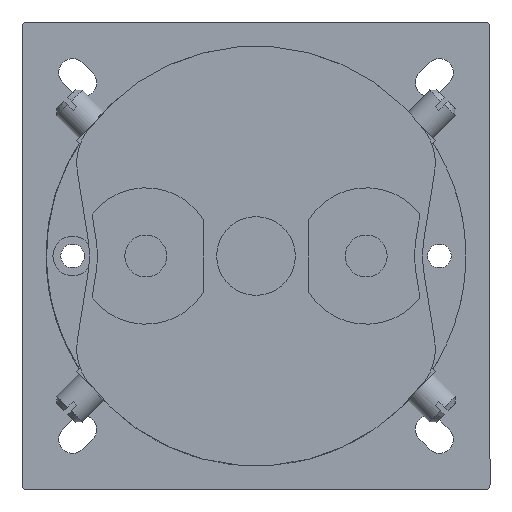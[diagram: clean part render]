
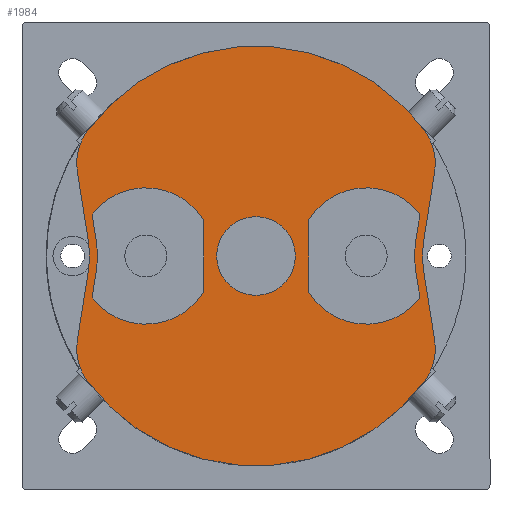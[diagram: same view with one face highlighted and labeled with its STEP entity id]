
A CAD part, front view. The second image highlights one B-rep face of the part: STEP entity #1984.
In plain terms, the highlighted planar face has unit normal (0, -1, 0).
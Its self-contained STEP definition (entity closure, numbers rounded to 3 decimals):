
#1067=FACE_BOUND('',#5192,.T.);
#1068=FACE_BOUND('',#5193,.T.);
#1069=FACE_BOUND('',#5194,.T.);
#1070=FACE_BOUND('',#5195,.T.);
#1984=ADVANCED_FACE('',(#1067,#1068,#1069,#1070),#2895,.T.);
#2895=PLANE('',#21921);
#5192=EDGE_LOOP('',(#10536,#10537,#10538,#10539,#10540,#10541));
#5193=EDGE_LOOP('',(#10542,#10543,#10544,#10545,#10546,#10547));
#5194=EDGE_LOOP('',(#10548,#10549,#10550,#10551,#10552,#10553,#10554,#10555,
#10556,#10557,#10558,#10559));
#5195=EDGE_LOOP('',(#10560));
#5970=CIRCLE('',#21893,7.5);
#5971=CIRCLE('',#21895,13.);
#5972=CIRCLE('',#21898,21.5);
#5973=CIRCLE('',#21901,13.);
#5974=CIRCLE('',#21904,21.5);
#5975=CIRCLE('',#21907,13.);
#5976=CIRCLE('',#21910,13.);
#5977=CIRCLE('',#21913,10.);
#5978=CIRCLE('',#21914,20.);
#5979=CIRCLE('',#21915,10.);
#5980=CIRCLE('',#21916,40.);
#5981=CIRCLE('',#21917,10.);
#5982=CIRCLE('',#21918,20.);
#5983=CIRCLE('',#21919,10.);
#5984=CIRCLE('',#21920,40.);
#10536=ORIENTED_EDGE('',*,*,#15929,.T.);
#10537=ORIENTED_EDGE('',*,*,#15927,.T.);
#10538=ORIENTED_EDGE('',*,*,#15925,.T.);
#10539=ORIENTED_EDGE('',*,*,#15923,.T.);
#10540=ORIENTED_EDGE('',*,*,#15921,.T.);
#10541=ORIENTED_EDGE('',*,*,#15918,.T.);
#10542=ORIENTED_EDGE('',*,*,#15917,.F.);
#10543=ORIENTED_EDGE('',*,*,#15915,.F.);
#10544=ORIENTED_EDGE('',*,*,#15913,.F.);
#10545=ORIENTED_EDGE('',*,*,#15911,.F.);
#10546=ORIENTED_EDGE('',*,*,#15909,.F.);
#10547=ORIENTED_EDGE('',*,*,#15906,.F.);
#10548=ORIENTED_EDGE('',*,*,#15930,.T.);
#10549=ORIENTED_EDGE('',*,*,#15931,.T.);
#10550=ORIENTED_EDGE('',*,*,#15932,.T.);
#10551=ORIENTED_EDGE('',*,*,#15933,.T.);
#10552=ORIENTED_EDGE('',*,*,#15934,.T.);
#10553=ORIENTED_EDGE('',*,*,#15935,.T.);
#10554=ORIENTED_EDGE('',*,*,#15936,.T.);
#10555=ORIENTED_EDGE('',*,*,#15937,.T.);
#10556=ORIENTED_EDGE('',*,*,#15938,.T.);
#10557=ORIENTED_EDGE('',*,*,#15939,.T.);
#10558=ORIENTED_EDGE('',*,*,#15940,.T.);
#10559=ORIENTED_EDGE('',*,*,#15941,.T.);
#10560=ORIENTED_EDGE('',*,*,#15905,.F.);
#13282=VERTEX_POINT('',#34390);
#13283=VERTEX_POINT('',#34393);
#13284=VERTEX_POINT('',#34394);
#13285=VERTEX_POINT('',#34399);
#13286=VERTEX_POINT('',#34403);
#13287=VERTEX_POINT('',#34407);
#13288=VERTEX_POINT('',#34411);
#13289=VERTEX_POINT('',#34417);
#13290=VERTEX_POINT('',#34418);
#13291=VERTEX_POINT('',#34423);
#13292=VERTEX_POINT('',#34427);
#13293=VERTEX_POINT('',#34431);
#13294=VERTEX_POINT('',#34435);
#13295=VERTEX_POINT('',#34441);
#13296=VERTEX_POINT('',#34442);
#13297=VERTEX_POINT('',#34444);
#13298=VERTEX_POINT('',#34446);
#13299=VERTEX_POINT('',#34448);
#13300=VERTEX_POINT('',#34450);
#13301=VERTEX_POINT('',#34452);
#13302=VERTEX_POINT('',#34454);
#13303=VERTEX_POINT('',#34456);
#13304=VERTEX_POINT('',#34458);
#13305=VERTEX_POINT('',#34460);
#13306=VERTEX_POINT('',#34462);
#15905=EDGE_CURVE('',#13282,#13282,#5970,.T.);
#15906=EDGE_CURVE('',#13283,#13284,#5971,.T.);
#15909=EDGE_CURVE('',#13284,#13285,#18068,.T.);
#15911=EDGE_CURVE('',#13285,#13286,#5972,.T.);
#15913=EDGE_CURVE('',#13286,#13287,#18071,.T.);
#15915=EDGE_CURVE('',#13287,#13288,#5973,.T.);
#15917=EDGE_CURVE('',#13288,#13283,#18074,.T.);
#15918=EDGE_CURVE('',#13289,#13290,#5974,.T.);
#15921=EDGE_CURVE('',#13291,#13289,#18077,.T.);
#15923=EDGE_CURVE('',#13292,#13291,#5975,.T.);
#15925=EDGE_CURVE('',#13293,#13292,#18080,.T.);
#15927=EDGE_CURVE('',#13294,#13293,#5976,.T.);
#15929=EDGE_CURVE('',#13290,#13294,#18083,.T.);
#15930=EDGE_CURVE('',#13295,#13296,#5977,.T.);
#15931=EDGE_CURVE('',#13296,#13297,#18084,.T.);
#15932=EDGE_CURVE('',#13297,#13298,#5978,.T.);
#15933=EDGE_CURVE('',#13298,#13299,#18085,.T.);
#15934=EDGE_CURVE('',#13299,#13300,#5979,.T.);
#15935=EDGE_CURVE('',#13300,#13301,#5980,.T.);
#15936=EDGE_CURVE('',#13301,#13302,#5981,.T.);
#15937=EDGE_CURVE('',#13302,#13303,#18086,.T.);
#15938=EDGE_CURVE('',#13303,#13304,#5982,.T.);
#15939=EDGE_CURVE('',#13304,#13305,#18087,.T.);
#15940=EDGE_CURVE('',#13305,#13306,#5983,.T.);
#15941=EDGE_CURVE('',#13306,#13295,#5984,.T.);
#18068=LINE('',#34398,#20079);
#18071=LINE('',#34406,#20082);
#18074=LINE('',#34414,#20085);
#18077=LINE('',#34422,#20088);
#18080=LINE('',#34430,#20091);
#18083=LINE('',#34438,#20094);
#18084=LINE('',#34443,#20095);
#18085=LINE('',#34447,#20096);
#18086=LINE('',#34455,#20097);
#18087=LINE('',#34459,#20098);
#20079=VECTOR('',#26749,1.);
#20082=VECTOR('',#26758,1.);
#20085=VECTOR('',#26767,1.);
#20088=VECTOR('',#26776,1.);
#20091=VECTOR('',#26785,1.);
#20094=VECTOR('',#26794,1.);
#20095=VECTOR('',#26799,1.);
#20096=VECTOR('',#26802,1.);
#20097=VECTOR('',#26809,1.);
#20098=VECTOR('',#26812,1.);
#21893=AXIS2_PLACEMENT_3D('',#34389,#26739,#26740);
#21895=AXIS2_PLACEMENT_3D('',#34392,#26743,#26744);
#21898=AXIS2_PLACEMENT_3D('',#34402,#26753,#26754);
#21901=AXIS2_PLACEMENT_3D('',#34410,#26762,#26763);
#21904=AXIS2_PLACEMENT_3D('',#34416,#26770,#26771);
#21907=AXIS2_PLACEMENT_3D('',#34426,#26780,#26781);
#21910=AXIS2_PLACEMENT_3D('',#34434,#26789,#26790);
#21913=AXIS2_PLACEMENT_3D('',#34440,#26797,#26798);
#21914=AXIS2_PLACEMENT_3D('',#34445,#26800,#26801);
#21915=AXIS2_PLACEMENT_3D('',#34449,#26803,#26804);
#21916=AXIS2_PLACEMENT_3D('',#34451,#26805,#26806);
#21917=AXIS2_PLACEMENT_3D('',#34453,#26807,#26808);
#21918=AXIS2_PLACEMENT_3D('',#34457,#26810,#26811);
#21919=AXIS2_PLACEMENT_3D('',#34461,#26813,#26814);
#21920=AXIS2_PLACEMENT_3D('',#34463,#26815,#26816);
#21921=AXIS2_PLACEMENT_3D('',#34464,#26817,#26818);
#26739=DIRECTION('',(0.,-1.,0.));
#26740=DIRECTION('',(0.,0.,-1.));
#26743=DIRECTION('',(0.,-1.,0.));
#26744=DIRECTION('',(1.,0.,0.));
#26749=DIRECTION('',(-0.156,0.,0.988));
#26753=DIRECTION('',(0.,1.,0.));
#26754=DIRECTION('',(1.,0.,0.));
#26758=DIRECTION('',(0.156,0.,0.988));
#26762=DIRECTION('',(0.,-1.,0.));
#26763=DIRECTION('',(1.,0.,0.));
#26767=DIRECTION('',(0.,0.,-1.));
#26770=DIRECTION('',(0.,-1.,0.));
#26771=DIRECTION('',(1.,0.,0.));
#26776=DIRECTION('',(0.156,0.,0.988));
#26780=DIRECTION('',(0.,1.,0.));
#26781=DIRECTION('',(1.,0.,0.));
#26785=DIRECTION('',(0.,0.,-1.));
#26789=DIRECTION('',(0.,1.,0.));
#26790=DIRECTION('',(1.,0.,0.));
#26794=DIRECTION('',(-0.156,0.,0.988));
#26797=DIRECTION('',(0.,-1.,0.));
#26798=DIRECTION('',(0.,0.,-1.));
#26799=DIRECTION('',(0.156,0.,-0.988));
#26800=DIRECTION('',(0.,1.,0.));
#26801=DIRECTION('',(0.,0.,-1.));
#26802=DIRECTION('',(-0.156,0.,-0.988));
#26803=DIRECTION('',(0.,-1.,0.));
#26804=DIRECTION('',(0.,0.,-1.));
#26805=DIRECTION('',(0.,-1.,0.));
#26806=DIRECTION('',(0.,0.,-1.));
#26807=DIRECTION('',(0.,-1.,0.));
#26808=DIRECTION('',(0.,0.,-1.));
#26809=DIRECTION('',(-0.156,0.,0.988));
#26810=DIRECTION('',(0.,1.,0.));
#26811=DIRECTION('',(0.,0.,-1.));
#26812=DIRECTION('',(0.156,0.,0.988));
#26813=DIRECTION('',(0.,-1.,0.));
#26814=DIRECTION('',(0.,0.,-1.));
#26815=DIRECTION('',(0.,-1.,0.));
#26816=DIRECTION('',(0.,0.,-1.));
#26817=DIRECTION('',(0.,-1.,0.));
#26818=DIRECTION('',(0.,0.,-1.));
#34389=CARTESIAN_POINT('',(0.,-152.5,0.));
#34390=CARTESIAN_POINT('',(0.,-152.5,-7.5));
#34392=CARTESIAN_POINT('',(21.031,-152.5,0.));
#34393=CARTESIAN_POINT('',(10.031,-152.5,-6.928));
#34394=CARTESIAN_POINT('',(31.253,-152.5,-8.032));
#34398=CARTESIAN_POINT('',(31.253,-152.5,-8.032));
#34399=CARTESIAN_POINT('',(30.514,-152.5,-3.363));
#34402=CARTESIAN_POINT('',(51.749,-152.5,0.));
#34403=CARTESIAN_POINT('',(30.514,-152.5,3.363));
#34406=CARTESIAN_POINT('',(30.514,-152.5,3.363));
#34407=CARTESIAN_POINT('',(31.253,-152.5,8.032));
#34410=CARTESIAN_POINT('',(21.031,-152.5,0.));
#34411=CARTESIAN_POINT('',(10.031,-152.5,6.928));
#34414=CARTESIAN_POINT('',(10.031,-152.5,6.928));
#34416=CARTESIAN_POINT('',(-51.749,-152.5,0.));
#34417=CARTESIAN_POINT('',(-30.514,-152.5,-3.363));
#34418=CARTESIAN_POINT('',(-30.514,-152.5,3.363));
#34422=CARTESIAN_POINT('',(-31.248,-152.5,-7.998));
#34423=CARTESIAN_POINT('',(-31.248,-152.5,-7.998));
#34426=CARTESIAN_POINT('',(-21.,-152.5,0.));
#34427=CARTESIAN_POINT('',(-10.,-152.5,-6.928));
#34430=CARTESIAN_POINT('',(-10.,-152.5,6.928));
#34431=CARTESIAN_POINT('',(-10.,-152.5,6.928));
#34434=CARTESIAN_POINT('',(-21.,-152.5,0.));
#34435=CARTESIAN_POINT('',(-31.248,-152.5,7.998));
#34438=CARTESIAN_POINT('',(-30.514,-152.5,3.363));
#34440=CARTESIAN_POINT('',(-24.186,-152.5,17.749));
#34441=CARTESIAN_POINT('',(-32.249,-152.5,23.665));
#34442=CARTESIAN_POINT('',(-34.063,-152.5,16.184));
#34443=CARTESIAN_POINT('',(-34.063,-152.5,16.184));
#34444=CARTESIAN_POINT('',(-31.996,-152.5,3.129));
#34445=CARTESIAN_POINT('',(-51.749,-152.5,0.));
#34446=CARTESIAN_POINT('',(-31.996,-152.5,-3.129));
#34447=CARTESIAN_POINT('',(-31.996,-152.5,-3.129));
#34448=CARTESIAN_POINT('',(-34.063,-152.5,-16.184));
#34449=CARTESIAN_POINT('',(-24.186,-152.5,-17.749));
#34450=CARTESIAN_POINT('',(-32.249,-152.5,-23.665));
#34451=CARTESIAN_POINT('',(0.,-152.5,0.));
#34452=CARTESIAN_POINT('',(32.249,-152.5,-23.665));
#34453=CARTESIAN_POINT('',(24.186,-152.5,-17.749));
#34454=CARTESIAN_POINT('',(34.063,-152.5,-16.184));
#34455=CARTESIAN_POINT('',(34.063,-152.5,-16.184));
#34456=CARTESIAN_POINT('',(31.996,-152.5,-3.129));
#34457=CARTESIAN_POINT('',(51.749,-152.5,0.));
#34458=CARTESIAN_POINT('',(31.996,-152.5,3.129));
#34459=CARTESIAN_POINT('',(31.996,-152.5,3.129));
#34460=CARTESIAN_POINT('',(34.063,-152.5,16.184));
#34461=CARTESIAN_POINT('',(24.186,-152.5,17.749));
#34462=CARTESIAN_POINT('',(32.249,-152.5,23.665));
#34463=CARTESIAN_POINT('',(0.,-152.5,0.));
#34464=CARTESIAN_POINT('',(-24.186,-152.5,17.749));
